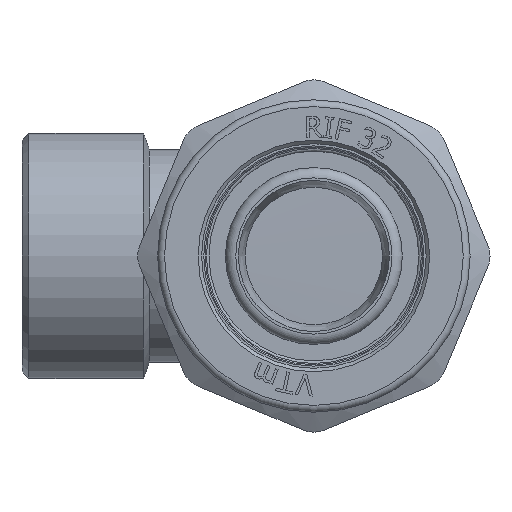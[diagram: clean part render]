
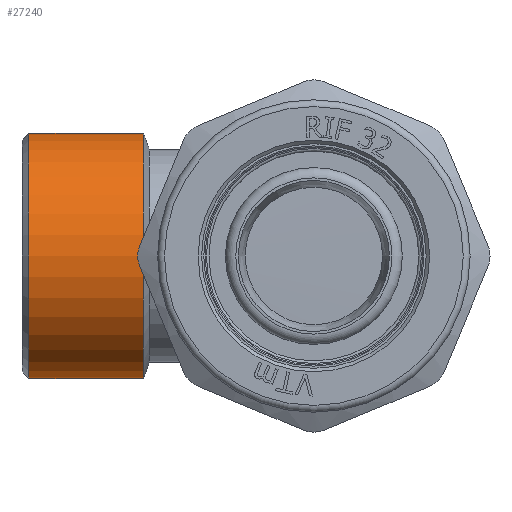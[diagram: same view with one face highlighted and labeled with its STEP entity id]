
A CAD part, left-side view. The second image highlights one B-rep face of the part: STEP entity #27240.
In plain terms, the highlighted cylindrical face has radius 17.871 mm (diameter 35.743 mm), a full revolution.
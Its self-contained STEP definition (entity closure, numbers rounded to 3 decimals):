
#1878=CIRCLE('',#28417,17.871);
#1879=CIRCLE('',#28418,17.871);
#1880=CIRCLE('',#28420,17.871);
#1881=CIRCLE('',#28421,17.871);
#3403=FACE_OUTER_BOUND('',#4961,.T.);
#4961=EDGE_LOOP('',(#25262,#25263,#25264,#25265,#25266,#25267));
#8539=LINE('',#66059,#10325);
#10325=VECTOR('',#32561,17.871);
#13048=VERTEX_POINT('',#66049);
#13049=VERTEX_POINT('',#66050);
#13050=VERTEX_POINT('',#66055);
#13051=VERTEX_POINT('',#66056);
#17157=EDGE_CURVE('',#13048,#13049,#1878,.T.);
#17158=EDGE_CURVE('',#13049,#13048,#1879,.T.);
#17160=EDGE_CURVE('',#13050,#13051,#1880,.T.);
#17161=EDGE_CURVE('',#13051,#13050,#1881,.T.);
#17162=EDGE_CURVE('',#13051,#13049,#8539,.T.);
#25262=ORIENTED_EDGE('',*,*,#17160,.F.);
#25263=ORIENTED_EDGE('',*,*,#17161,.F.);
#25264=ORIENTED_EDGE('',*,*,#17162,.T.);
#25265=ORIENTED_EDGE('',*,*,#17158,.T.);
#25266=ORIENTED_EDGE('',*,*,#17157,.T.);
#25267=ORIENTED_EDGE('',*,*,#17162,.F.);
#25821=CYLINDRICAL_SURFACE('',#28419,17.871);
#27240=ADVANCED_FACE('',(#3403),#25821,.T.);
#28417=AXIS2_PLACEMENT_3D('',#66051,#32550,#32551);
#28418=AXIS2_PLACEMENT_3D('',#66052,#32552,#32553);
#28419=AXIS2_PLACEMENT_3D('',#66054,#32555,#32556);
#28420=AXIS2_PLACEMENT_3D('',#66057,#32557,#32558);
#28421=AXIS2_PLACEMENT_3D('',#66058,#32559,#32560);
#32550=DIRECTION('center_axis',(0.,-1.,0.));
#32551=DIRECTION('ref_axis',(1.,0.,0.));
#32552=DIRECTION('center_axis',(0.,-1.,0.));
#32553=DIRECTION('ref_axis',(1.,0.,0.));
#32555=DIRECTION('center_axis',(0.,-1.,0.));
#32556=DIRECTION('ref_axis',(1.,0.,0.));
#32557=DIRECTION('center_axis',(0.,-1.,0.));
#32558=DIRECTION('ref_axis',(1.,0.,0.));
#32559=DIRECTION('center_axis',(0.,-1.,0.));
#32560=DIRECTION('ref_axis',(1.,0.,0.));
#32561=DIRECTION('',(0.,1.,0.));
#66049=CARTESIAN_POINT('',(17.871,41.5,0.));
#66050=CARTESIAN_POINT('',(-17.871,41.5,0.));
#66051=CARTESIAN_POINT('Origin',(0.,41.5,0.));
#66052=CARTESIAN_POINT('Origin',(0.,41.5,0.));
#66054=CARTESIAN_POINT('Origin',(0.,33.159,0.));
#66055=CARTESIAN_POINT('',(17.871,24.817,0.));
#66056=CARTESIAN_POINT('',(-17.871,24.817,0.));
#66057=CARTESIAN_POINT('Origin',(0.,24.817,0.));
#66058=CARTESIAN_POINT('Origin',(0.,24.817,0.));
#66059=CARTESIAN_POINT('',(-17.871,33.159,0.));
